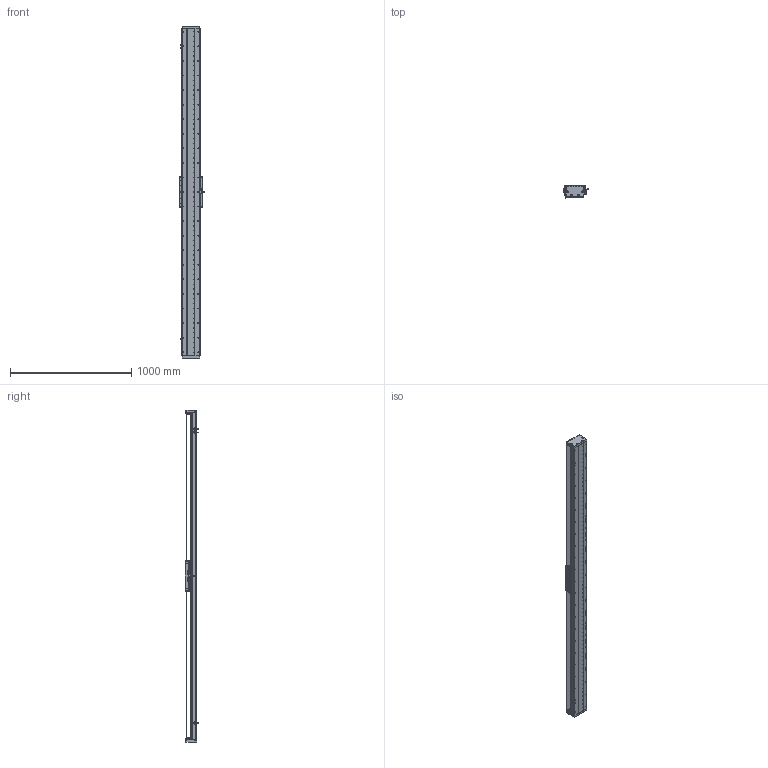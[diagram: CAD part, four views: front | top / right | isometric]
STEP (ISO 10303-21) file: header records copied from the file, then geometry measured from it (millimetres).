
FILE_DESCRIPTION (( 'STEP AP203' ), '1' );
FILE_NAME ('DA-C145-C3-T2400-C010-0.2 眻盄萇儂.STEP', '2025-08-14T01:33:11', ( '' ), ( '' ), 'SwSTEP 2.0', 'SolidWorks 2019', '' );
FILE_SCHEMA (( 'CONFIG_CONTROL_DESIGN' ));
Length unit declared in the file: millimetre
Products named in the file (32): 复件 半圆头内六角螺钉 M3×6^CU145-W 滚珠滑台; 葩璃 CKMA01-W060-TRL^DA-C145-C3-T-C010-0.2; 复件 DA145-C3-YB-B-00 压板B^CU145-W 滚珠滑台; 复件 DA95-DB-00  挡板^CU145-W 滚珠滑台; 葩璃 DMA-010-0.2 黍杅芛^DA-C145-C3-T-C010-0.2; 66245-CU145-HT-W-00 賑雄怢啣(3D芞祧)(00); 复件 DA146 钢带拉块^复件 CU145 钢带组件_DA-C145-C3-T-C010-0.2; 复件 纯铜油杯 6x6mm^CU145-W 滚珠滑台; 葩璃 DA145-C3-DP-A-00 菜えA^CU145-W 幗紩賑怢; 葩璃 PM-T45^DA-C145-C3-T-C010-0.2; CU145-W-00 珨极趙賑雄怢啣; 复件 DA145-GYP-00 光电感应片^DA-C145-C3-T-C010-0.2; CU145-W 幗紩賑怢; IU-CU145-L 菁釱絳寢; 复件 DA145-DG 钢带端盖^复件 CU145 钢带组件_DA-C145-C3-T-C010-0.2; 葩璃 鞠褒情蹟譫 M3^DA-C145-C3-T-C010-0.2; DA-C145-C3-T2400-C010-0.2 眻盄萇儂; 复件 DA146 钢带垫块^复件 CU145 钢带组件_DA-C145-C3-T-C010-0.2; 复件 DA145-C3-DK-00 挡块^CU145-W 滚珠滑台; 复件 DA95-HK-GT-00 滑块钢轨^CU145-W-00 一体化滑动台板; 复件 DA145-C3-YB-A-00 压板A^CU145-W 滚珠滑台; 葩璃 DA95-HXJ-00 遣喳砎蝶^DA-C145-C3-T-C010-0.2; TAY01-M8; 葩璃 CKM03-W060-C1C2-TP-0.2^DA-C145-C3-T-C010-0.2; 复件 DA145 钢带^复件 CU145 钢带组件_DA-C145-C3-T-C010-0.2; IU-CU145-L-00 菁釱(L2700); 葩璃 DA145-C3-DP-B-00 菜えB^CU145-W 幗紩賑怢; 复件 内六角平端紧定螺钉 GB.T77-2000 M5×10^CU145-W 滚珠滑台; 复件 DA95-MFP-01 密封片^CU145-W 滚珠滑台; 葩璃 XD-U-02L 棠掑喜^DA-C145-C3-T-C010-0.2; 葩璃 CU145 詩湍郪璃^DA-C145-C3-T-C010-0.2; 葩璃 DA95-GT-T-00^IU-CU145-L 菁釱絳寢
Assembly tree (103 placements, depth 4):
  DA-C145-C3-T2400-C010-0.2 眻盄萇儂
    IU-CU145-L 菁釱絳寢
      IU-CU145-L-00 菁釱(L2700)
      葩璃 DA95-GT-T-00^IU-CU145-L 菁釱絳寢  x4
    葩璃 CU145 詩湍郪璃^DA-C145-C3-T-C010-0.2
      复件 DA145-DG 钢带端盖^复件 CU145 钢带组件_DA-C145-C3-T-C010-0.2  x2
      复件 DA146 钢带拉块^复件 CU145 钢带组件_DA-C145-C3-T-C010-0.2  x2
      复件 DA146 钢带垫块^复件 CU145 钢带组件_DA-C145-C3-T-C010-0.2  x2
      复件 DA145 钢带^复件 CU145 钢带组件_DA-C145-C3-T-C010-0.2
    CU145-W 幗紩賑怢
      CU145-W-00 珨极趙賑雄怢啣
        66245-CU145-HT-W-00 賑雄怢啣(3D芞祧)(00)
        复件 DA95-HK-GT-00 滑块钢轨^CU145-W-00 一体化滑动台板  x8
      复件 DA95-MFP-01 密封片^CU145-W 滚珠滑台  x8
      复件 DA95-DB-00  挡板^CU145-W 滚珠滑台  x8
      复件 内六角平端紧定螺钉 GB.T77-2000 M5×10^CU145-W 滚珠滑台  x4
      复件 纯铜油杯 6x6mm^CU145-W 滚珠滑台  x4
      复件 半圆头内六角螺钉 M3×6^CU145-W 滚珠滑台  x16
      复件 DA145-C3-DK-00 挡块^CU145-W 滚珠滑台  x4
      葩璃 DA145-C3-DP-B-00 菜えB^CU145-W 幗紩賑怢  x2
      复件 DA145-C3-YB-B-00 压板B^CU145-W 滚珠滑台  x2
      葩璃 DA145-C3-DP-A-00 菜えA^CU145-W 幗紩賑怢  x3
      复件 DA145-C3-YB-A-00 压板A^CU145-W 滚珠滑台  x3
      TAY01-M8  x4
    葩璃 CKMA01-W060-TRL^DA-C145-C3-T-C010-0.2
    葩璃 PM-T45^DA-C145-C3-T-C010-0.2  x3
    葩璃 XD-U-02L 棠掑喜^DA-C145-C3-T-C010-0.2
    葩璃 DA95-HXJ-00 遣喳砎蝶^DA-C145-C3-T-C010-0.2  x4
    复件 DA145-GYP-00 光电感应片^DA-C145-C3-T-C010-0.2
    葩璃 DMA-010-0.2 黍杅芛^DA-C145-C3-T-C010-0.2
    葩璃 CKM03-W060-C1C2-TP-0.2^DA-C145-C3-T-C010-0.2
    葩璃 鞠褒情蹟譫 M3^DA-C145-C3-T-C010-0.2  x8
Bounding box: 203.5 x 108.45 x 2736 mm (x, y, z)
Volume: 12807433.1 mm3; surface area: 4282689.3 mm2
Topology: 99 solids, 131 shells, 4700 faces, 13472 edges, 8446 vertices
Faces by surface type: cylinder 2334, plane 1598, cone 690, torus 74, sphere 4
Entity records: 130690 total; most frequent: CARTESIAN_POINT 39252, ORIENTED_EDGE 18464, DIRECTION 17511, EDGE_CURVE 9232, AXIS2_PLACEMENT_3D 6580, VERTEX_POINT 5985, LINE 4351, VECTOR 4351
